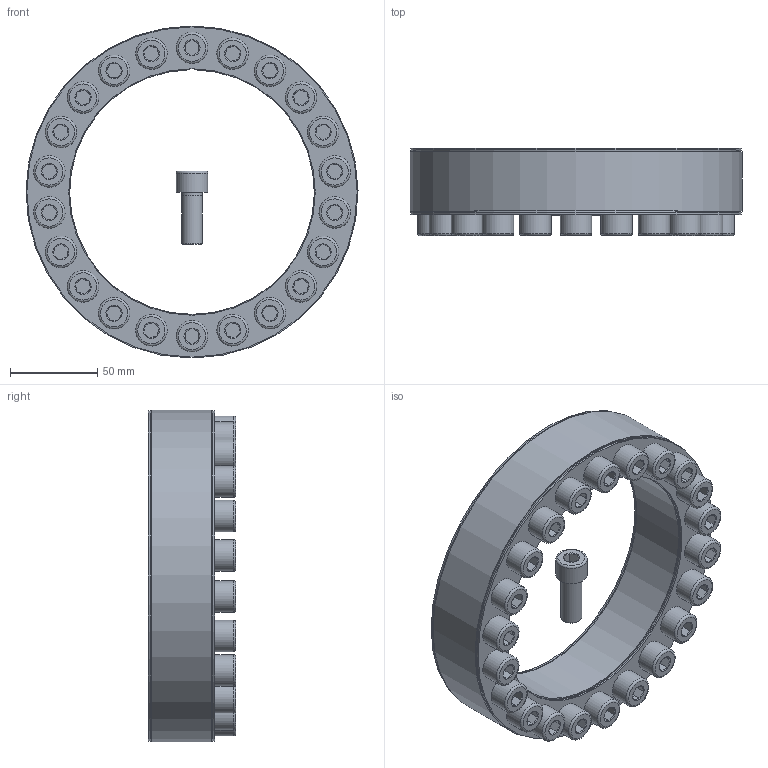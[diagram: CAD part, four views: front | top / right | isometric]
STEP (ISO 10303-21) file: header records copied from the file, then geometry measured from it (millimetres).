
FILE_DESCRIPTION( ( 'Unknown' ), '1' );
FILE_NAME( 'C:/Dokumente und Einstellungen/Sven/Desktop/homepage/cad - homepage/KBS40/KBS 40 - 140 x 190.stp', 'Unknown', ( 'Unknown' ), ( 'Unknown' ), 'XStep 1.0', 'Unknown', ' ' );
FILE_SCHEMA( ( 'automotive_design' ) );
Length unit declared in the file: millimetre
Products named in the file (24): Assem1; KBS 40 140x190; ISO 4762 M12x30; ISO 4762 M12x30-oa0; ISO 4762 M12x30-oa1; ISO 4762 M12x30-oa2; ISO 4762 M12x30-oa3; ISO 4762 M12x30-oa4; ISO 4762 M12x30-oa5; ISO 4762 M12x30-oa6; ISO 4762 M12x30-oa7; ISO 4762 M12x30-oa8; ISO 4762 M12x30-oa9; ISO 4762 M12x30-oa10; ISO 4762 M12x30-oa11; ISO 4762 M12x30-oa12; ISO 4762 M12x30-oa13; ISO 4762 M12x30-oa14; ISO 4762 M12x30-oa15; ISO 4762 M12x30-oa16; ISO 4762 M12x30-oa17; ISO 4762 M12x30-oa18; ISO 4762 M12x30-oa19; ISO 4762 M12x30-oa20
Bounding box: 189.99 x 50 x 189.99 mm (x, y, z)
Volume: 1058492.3 mm3; surface area: 293811.2 mm2
Topology: 46 solids, 46 shells, 1204 faces, 2208 edges, 1272 vertices
Faces by surface type: plane 568, cone 316, cylinder 232, torus 88
Full cylindrical faces by diameter (mm): 11 x44, 12 x132, 18 x44, 141 x4, 189 x4
Entity records: 14641 total; most frequent: CARTESIAN_POINT 3102, DIRECTION 2432, ORIENTED_EDGE 1748, AXIS2_PLACEMENT_3D 1064, EDGE_LOOP 920, EDGE_CURVE 874, FACE_OUTER_BOUND 760, ADVANCED_FACE 602
